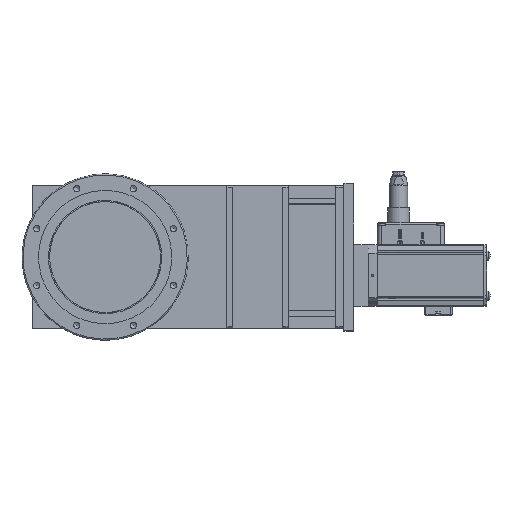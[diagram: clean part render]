
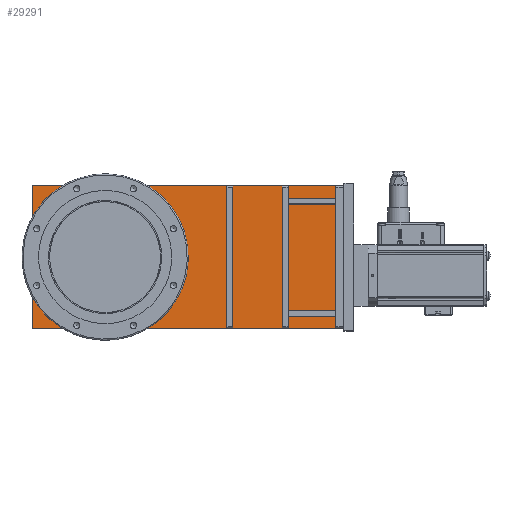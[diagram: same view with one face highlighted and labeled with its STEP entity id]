
A CAD part, top view. The second image highlights one B-rep face of the part: STEP entity #29291.
In plain terms, the highlighted planar face has unit normal (0, 0, 1).
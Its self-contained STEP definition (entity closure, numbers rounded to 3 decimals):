
#13197=LINE('',#109952,#17182);
#13199=LINE('',#109956,#17184);
#13201=LINE('',#109960,#17186);
#13203=LINE('',#109964,#17188);
#17182=VECTOR('',#78520,1.);
#17184=VECTOR('',#78524,1.);
#17186=VECTOR('',#78528,1.);
#17188=VECTOR('',#78532,1.);
#24310=PLANE('',#66140);
#29291=ADVANCED_FACE('',(#31424,#31425),#24310,.F.);
#31424=FACE_BOUND('',#35075,.T.);
#31425=FACE_BOUND('',#35076,.T.);
#35075=EDGE_LOOP('',(#48708));
#35076=EDGE_LOOP('',(#48709,#48710,#48711,#48712));
#48708=ORIENTED_EDGE('',*,*,#60447,.T.);
#48709=ORIENTED_EDGE('',*,*,#60440,.F.);
#48710=ORIENTED_EDGE('',*,*,#60438,.T.);
#48711=ORIENTED_EDGE('',*,*,#60444,.F.);
#48712=ORIENTED_EDGE('',*,*,#60442,.F.);
#53611=VERTEX_POINT('',#109951);
#53612=VERTEX_POINT('',#109953);
#53613=VERTEX_POINT('',#109957);
#53614=VERTEX_POINT('',#109961);
#53617=VERTEX_POINT('',#109972);
#60438=EDGE_CURVE('',#53612,#53611,#13197,.T.);
#60440=EDGE_CURVE('',#53612,#53613,#13199,.T.);
#60442=EDGE_CURVE('',#53613,#53614,#13201,.T.);
#60444=EDGE_CURVE('',#53614,#53611,#13203,.T.);
#60447=EDGE_CURVE('',#53617,#53617,#61966,.T.);
#61966=CIRCLE('',#66139,75.3);
#66139=AXIS2_PLACEMENT_3D('',#109971,#78541,#78542);
#66140=AXIS2_PLACEMENT_3D('',#109973,#78543,#78544);
#78520=DIRECTION('',(0.,1.,0.));
#78524=DIRECTION('',(-1.,0.,0.));
#78528=DIRECTION('',(0.,1.,0.));
#78532=DIRECTION('',(1.,0.,0.));
#78541=DIRECTION('',(0.,0.,-1.));
#78542=DIRECTION('',(0.,1.,0.));
#78543=DIRECTION('',(0.,0.,-1.));
#78544=DIRECTION('',(0.,1.,0.));
#109951=CARTESIAN_POINT('',(322.3,96.225,27.));
#109952=CARTESIAN_POINT('',(322.3,0.,27.));
#109953=CARTESIAN_POINT('',(322.3,-96.225,27.));
#109956=CARTESIAN_POINT('',(323.6,-96.225,27.));
#109957=CARTESIAN_POINT('',(-98.55,-96.225,27.));
#109960=CARTESIAN_POINT('',(-98.55,-96.225,27.));
#109961=CARTESIAN_POINT('',(-98.55,96.225,27.));
#109964=CARTESIAN_POINT('',(-98.55,96.225,27.));
#109971=CARTESIAN_POINT('',(0.,0.,
27.));
#109972=CARTESIAN_POINT('',(0.,75.3,27.));
#109973=CARTESIAN_POINT('',(0.,0.,
27.));
